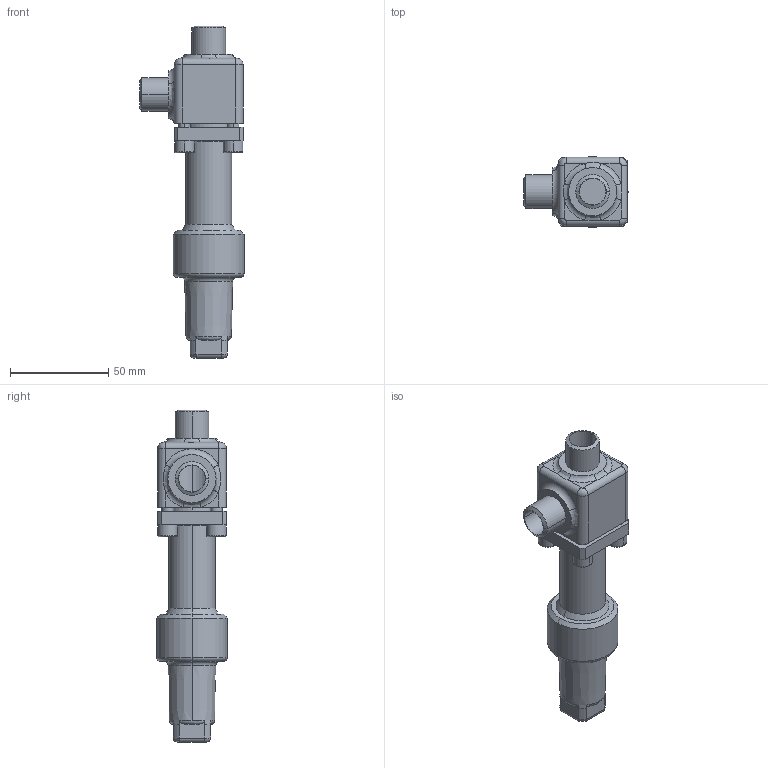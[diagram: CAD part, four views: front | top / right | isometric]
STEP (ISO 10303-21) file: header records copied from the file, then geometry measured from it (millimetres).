
FILE_DESCRIPTION (( 'STEP AP214' ), '1' );
FILE_NAME ('RVA99400-DN010_R1_PS40.STEP', '2006-05-02T09:44:13', ( 'Herr Grams' ), ( 'AWP GmbH' ), 'SwSTEP 2.0', 'SolidWorks 2002296', '' );
FILE_SCHEMA (( 'AUTOMOTIVE_DESIGN' ));
Length unit declared in the file: millimetre
Products named in the file (6): RVA99400-DN010_R1_PS40; RVA99300E10_Deck+Schr-DN6-15_Standard; Zylinderschraube-DIN912_M 6x 18; Deckel99300E10-DN6-15_PS40_Standard; Kappe96300E10_DN6-20_Standard; Gehäuse96400E08-DN10_PS40_R1_Standard
Assembly tree (8 placements, depth 3):
  RVA99400-DN010_R1_PS40
    RVA99300E10_Deck+Schr-DN6-15_Standard
      Zylinderschraube-DIN912_M 6x 18  x4
      Deckel99300E10-DN6-15_PS40_Standard
    Gehäuse96400E08-DN10_PS40_R1_Standard
    Kappe96300E10_DN6-20_Standard
Bounding box: 53 x 36 x 169 mm (x, y, z)
Volume: 100875.7 mm3; surface area: 33214.9 mm2
Topology: 7 solids, 7 shells, 228 faces, 506 edges, 311 vertices
Faces by surface type: cylinder 82, plane 81, torus 34, cone 24, bspline 7
Entity records: 10007 total; most frequent: CARTESIAN_POINT 5343, DIRECTION 918, ORIENTED_EDGE 784, EDGE_CURVE 392, AXIS2_PLACEMENT_3D 385, VERTEX_POINT 239, CIRCLE 206, EDGE_LOOP 199
